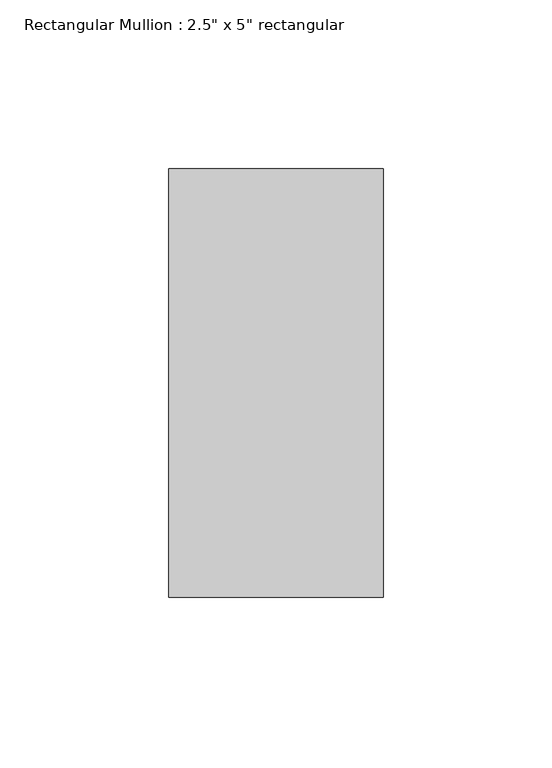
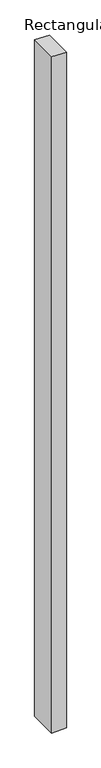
"""IFC4 building model written with IfcOpenShell, lengths in millimetres: member geometry."""

from ifc_helpers import new_model, si_unit, frame, origin, place, context, project, spatial, polyline, outline, extrude, source, transform, mapped, element, save


def member_786ddc1b(model_context):
    return source(origin(), model_context, "Body", "SweptSolid", [
        extrude(outline(polyline([(0.0, 0.0), (1.0772453, -63.5), (-3088.9396657, -63.5), (-3087.8233351, 0.0), (0.0, 0.0)])), frame((0.0, -63.5, 0.0), z_axis=(0.0, 1.0, 0.0), x_axis=(0.0, 0.0, 1.0)), (0.0, 0.0, 1.0), 127.0),
    ])


if __name__ == "__main__":
    model = new_model("IFC4")
    model_context = context("Model", 3, world=origin())
    ifc_project = project(units=[si_unit("LENGTHUNIT", "METRE", prefix="MILLI")], contexts=[model_context])
    site = spatial("IfcSite", under=ifc_project)
    building = spatial("IfcBuilding", under=site)
    placement = place(None, origin())
    member_shape = member_786ddc1b(model_context)
    element("IfcMember", 1, ObjectType="Rectangular Mullion : 2.5\" x 5\" rectangular", at=placement, inside=building, context=model_context, shape_type="MappedRepresentation", body=[
        mapped(member_shape, transform((0.0, 0.0, 0.0), x_axis=(1.0, 0.0, 0.0), y_axis=(0.0, 1.0, 0.0), z_axis=(0.0, 0.0, 1.0))),
    ])
    save(model, "model.ifc")
